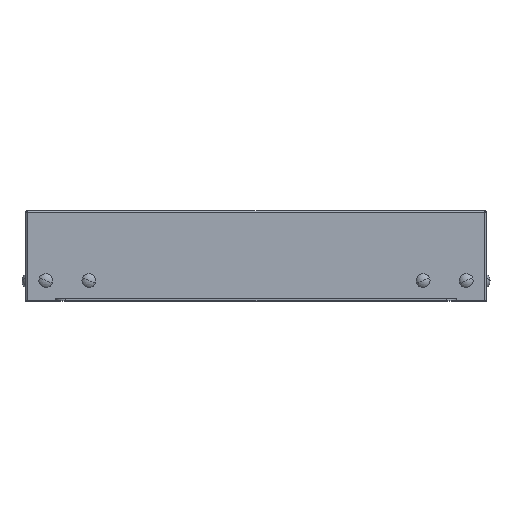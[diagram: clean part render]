
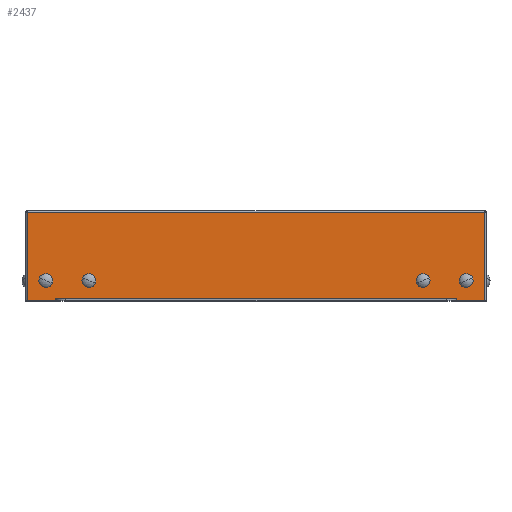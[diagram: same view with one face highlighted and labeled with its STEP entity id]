
A CAD part, top view. The second image highlights one B-rep face of the part: STEP entity #2437.
In plain terms, the highlighted planar face has unit normal (0, 0, 1).
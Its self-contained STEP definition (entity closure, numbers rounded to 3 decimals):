
#5 = EDGE_LOOP ( 'NONE', ( #851, #158 ) ) ;
#85 = EDGE_LOOP ( 'NONE', ( #1577, #1911, #782, #3794, #3509, #552, #757, #2660 ) ) ;
#113 = CARTESIAN_POINT ( 'NONE',  ( -83.5, 10., 115. ) ) ;
#120 = EDGE_CURVE ( 'NONE', #4272, #4014, #582, .T. ) ;
#158 = ORIENTED_EDGE ( 'NONE', *, *, #1169, .T. ) ;
#267 = CARTESIAN_POINT ( 'NONE',  ( 100., 0., 115. ) ) ;
#272 = ORIENTED_EDGE ( 'NONE', *, *, #1347, .F. ) ;
#340 = CARTESIAN_POINT ( 'NONE',  ( -114., 0., 115. ) ) ;
#348 = DIRECTION ( 'NONE',  ( -1., 0., 0. ) ) ;
#361 = LINE ( 'NONE', #750, #2559 ) ;
#418 = CARTESIAN_POINT ( 'NONE',  ( 114., 0., 115. ) ) ;
#440 = CARTESIAN_POINT ( 'NONE',  ( 105., 10., 115. ) ) ;
#485 = CARTESIAN_POINT ( 'NONE',  ( -106.317, 6.811, 115. ) ) ;
#503 = ORIENTED_EDGE ( 'NONE', *, *, #3773, .T. ) ;
#541 = CARTESIAN_POINT ( 'NONE',  ( -103.683, 13.189, 115. ) ) ;
#552 = ORIENTED_EDGE ( 'NONE', *, *, #3660, .T. ) ;
#582 = LINE ( 'NONE', #3761, #3157 ) ;
#599 = CIRCLE ( 'NONE', #1955, 3.45 ) ;
#605 = CARTESIAN_POINT ( 'NONE',  ( 105., 10., 115. ) ) ;
#667 = AXIS2_PLACEMENT_3D ( 'NONE', #3280, #1536, #1582 ) ;
#726 = CARTESIAN_POINT ( 'NONE',  ( -114., 370.269, 115. ) ) ;
#750 = CARTESIAN_POINT ( 'NONE',  ( 100., 0., 115. ) ) ;
#757 = ORIENTED_EDGE ( 'NONE', *, *, #2872, .T. ) ;
#762 = DIRECTION ( 'NONE',  ( 0., 0., -1. ) ) ;
#782 = ORIENTED_EDGE ( 'NONE', *, *, #2405, .F. ) ;
#808 = DIRECTION ( 'NONE',  ( 0.382, 0.924, 0. ) ) ;
#851 = ORIENTED_EDGE ( 'NONE', *, *, #1370, .T. ) ;
#946 = VERTEX_POINT ( 'NONE', #541 ) ;
#947 = CARTESIAN_POINT ( 'NONE',  ( 106.317, 6.811, 115. ) ) ;
#953 = CARTESIAN_POINT ( 'NONE',  ( -105., 10., 115. ) ) ;
#998 = VECTOR ( 'NONE', #2397, 1000. ) ;
#1009 = CARTESIAN_POINT ( 'NONE',  ( 83.5, 10., 115. ) ) ;
#1029 = DIRECTION ( 'NONE',  ( 0., 0., -1. ) ) ;
#1037 = EDGE_CURVE ( 'NONE', #3762, #3614, #2902, .T. ) ;
#1056 = LINE ( 'NONE', #726, #2998 ) ;
#1076 = DIRECTION ( 'NONE',  ( 0., -1., 0. ) ) ;
#1099 = DIRECTION ( 'NONE',  ( 0.382, -0.924, 0. ) ) ;
#1169 = EDGE_CURVE ( 'NONE', #3963, #4317, #1761, .T. ) ;
#1178 = CIRCLE ( 'NONE', #3881, 3.45 ) ;
#1183 = CARTESIAN_POINT ( 'NONE',  ( -100., 0., 115. ) ) ;
#1195 = EDGE_CURVE ( 'NONE', #3614, #3762, #1178, .T. ) ;
#1239 = CARTESIAN_POINT ( 'NONE',  ( 82.183, 13.189, 115. ) ) ;
#1255 = CARTESIAN_POINT ( 'NONE',  ( 114., 44., 115. ) ) ;
#1347 = EDGE_CURVE ( 'NONE', #3526, #3892, #2472, .T. ) ;
#1370 = EDGE_CURVE ( 'NONE', #4317, #3963, #599, .T. ) ;
#1417 = FACE_BOUND ( 'NONE', #2527, .T. ) ;
#1508 = AXIS2_PLACEMENT_3D ( 'NONE', #1009, #3067, #4467 ) ;
#1536 = DIRECTION ( 'NONE',  ( 0., 0., 1. ) ) ;
#1547 = AXIS2_PLACEMENT_3D ( 'NONE', #2750, #4159, #3533 ) ;
#1577 = ORIENTED_EDGE ( 'NONE', *, *, #2709, .T. ) ;
#1582 = DIRECTION ( 'NONE',  ( 0.382, 0.924, 0. ) ) ;
#1599 = EDGE_CURVE ( 'NONE', #3892, #3526, #4307, .T. ) ;
#1601 = EDGE_LOOP ( 'NONE', ( #1793, #503 ) ) ;
#1624 = VECTOR ( 'NONE', #348, 1000. ) ;
#1682 = VERTEX_POINT ( 'NONE', #1183 ) ;
#1717 = CARTESIAN_POINT ( 'NONE',  ( -82.183, 13.189, 115. ) ) ;
#1761 = CIRCLE ( 'NONE', #2494, 3.45 ) ;
#1793 = ORIENTED_EDGE ( 'NONE', *, *, #3228, .T. ) ;
#1794 = CARTESIAN_POINT ( 'NONE',  ( -114., 44., 115. ) ) ;
#1887 = EDGE_CURVE ( 'NONE', #3361, #3931, #2625, .T. ) ;
#1892 = CIRCLE ( 'NONE', #3941, 3.45 ) ;
#1911 = ORIENTED_EDGE ( 'NONE', *, *, #120, .T. ) ;
#1930 = CARTESIAN_POINT ( 'NONE',  ( -84.817, 6.811, 115. ) ) ;
#1947 = DIRECTION ( 'NONE',  ( 1., 0., 0. ) ) ;
#1955 = AXIS2_PLACEMENT_3D ( 'NONE', #605, #4138, #1947 ) ;
#1992 = CARTESIAN_POINT ( 'NONE',  ( -100., 0., 115. ) ) ;
#2017 = DIRECTION ( 'NONE',  ( 0., 1., 0. ) ) ;
#2096 = VERTEX_POINT ( 'NONE', #485 ) ;
#2133 = PLANE ( 'NONE',  #1547 ) ;
#2223 = AXIS2_PLACEMENT_3D ( 'NONE', #113, #3261, #808 ) ;
#2268 = LINE ( 'NONE', #3915, #2432 ) ;
#2337 = DIRECTION ( 'NONE',  ( 0., 0., -1. ) ) ;
#2397 = DIRECTION ( 'NONE',  ( -1., 0., 0. ) ) ;
#2405 = EDGE_CURVE ( 'NONE', #3931, #4014, #361, .T. ) ;
#2432 = VECTOR ( 'NONE', #2858, 1000. ) ;
#2434 = AXIS2_PLACEMENT_3D ( 'NONE', #953, #2337, #3729 ) ;
#2437 = ADVANCED_FACE ( 'NONE', ( #3809, #2452, #3846, #1417, #3869 ), #2133, .T. ) ;
#2452 = FACE_BOUND ( 'NONE', #1601, .T. ) ;
#2461 = VERTEX_POINT ( 'NONE', #340 ) ;
#2472 = CIRCLE ( 'NONE', #667, 3.45 ) ;
#2489 = EDGE_CURVE ( 'NONE', #3361, #3519, #2268, .T. ) ;
#2494 = AXIS2_PLACEMENT_3D ( 'NONE', #440, #762, #3220 ) ;
#2527 = EDGE_LOOP ( 'NONE', ( #3618, #3899 ) ) ;
#2559 = VECTOR ( 'NONE', #3833, 1000. ) ;
#2625 = LINE ( 'NONE', #4396, #3966 ) ;
#2653 = DIRECTION ( 'NONE',  ( -1., 0., 0. ) ) ;
#2660 = ORIENTED_EDGE ( 'NONE', *, *, #4358, .F. ) ;
#2709 = EDGE_CURVE ( 'NONE', #1682, #4272, #4430, .T. ) ;
#2715 = LINE ( 'NONE', #3478, #1624 ) ;
#2738 = CARTESIAN_POINT ( 'NONE',  ( 84.817, 6.811, 115. ) ) ;
#2750 = CARTESIAN_POINT ( 'NONE',  ( 115., 370.269, 115. ) ) ;
#2828 = DIRECTION ( 'NONE',  ( 0., 0., 1. ) ) ;
#2858 = DIRECTION ( 'NONE',  ( 0., 1., 0. ) ) ;
#2872 = EDGE_CURVE ( 'NONE', #4452, #2461, #1056, .T. ) ;
#2902 = CIRCLE ( 'NONE', #1508, 3.45 ) ;
#2998 = VECTOR ( 'NONE', #1076, 1000. ) ;
#3020 = CIRCLE ( 'NONE', #2434, 3.45 ) ;
#3030 = EDGE_LOOP ( 'NONE', ( #3785, #272 ) ) ;
#3067 = DIRECTION ( 'NONE',  ( 0., 0., 1. ) ) ;
#3093 = CARTESIAN_POINT ( 'NONE',  ( 103.683, 13.189, 115. ) ) ;
#3157 = VECTOR ( 'NONE', #4479, 1000. ) ;
#3220 = DIRECTION ( 'NONE',  ( 1., 0., 0. ) ) ;
#3228 = EDGE_CURVE ( 'NONE', #946, #2096, #1892, .T. ) ;
#3261 = DIRECTION ( 'NONE',  ( 0., 0., 1. ) ) ;
#3280 = CARTESIAN_POINT ( 'NONE',  ( -83.5, 10., 115. ) ) ;
#3361 = VERTEX_POINT ( 'NONE', #418 ) ;
#3478 = CARTESIAN_POINT ( 'NONE',  ( -115., 44., 115. ) ) ;
#3507 = CARTESIAN_POINT ( 'NONE',  ( 83.5, 10., 115. ) ) ;
#3509 = ORIENTED_EDGE ( 'NONE', *, *, #2489, .T. ) ;
#3519 = VERTEX_POINT ( 'NONE', #1255 ) ;
#3526 = VERTEX_POINT ( 'NONE', #1930 ) ;
#3533 = DIRECTION ( 'NONE',  ( 1., 0., 0. ) ) ;
#3564 = CARTESIAN_POINT ( 'NONE',  ( 100., 1., 115. ) ) ;
#3614 = VERTEX_POINT ( 'NONE', #2738 ) ;
#3618 = ORIENTED_EDGE ( 'NONE', *, *, #1195, .F. ) ;
#3660 = EDGE_CURVE ( 'NONE', #3519, #4452, #2715, .T. ) ;
#3729 = DIRECTION ( 'NONE',  ( 1., 0., 0. ) ) ;
#3761 = CARTESIAN_POINT ( 'NONE',  ( -114., 1., 115. ) ) ;
#3762 = VERTEX_POINT ( 'NONE', #1239 ) ;
#3772 = CARTESIAN_POINT ( 'NONE',  ( 115., 0., 115. ) ) ;
#3773 = EDGE_CURVE ( 'NONE', #2096, #946, #3020, .T. ) ;
#3785 = ORIENTED_EDGE ( 'NONE', *, *, #1599, .F. ) ;
#3794 = ORIENTED_EDGE ( 'NONE', *, *, #1887, .F. ) ;
#3809 = FACE_BOUND ( 'NONE', #3030, .T. ) ;
#3833 = DIRECTION ( 'NONE',  ( 0., 1., 0. ) ) ;
#3846 = FACE_BOUND ( 'NONE', #5, .T. ) ;
#3857 = VECTOR ( 'NONE', #2017, 1000. ) ;
#3869 = FACE_OUTER_BOUND ( 'NONE', #85, .T. ) ;
#3881 = AXIS2_PLACEMENT_3D ( 'NONE', #3507, #2828, #1099 ) ;
#3892 = VERTEX_POINT ( 'NONE', #1717 ) ;
#3899 = ORIENTED_EDGE ( 'NONE', *, *, #1037, .F. ) ;
#3915 = CARTESIAN_POINT ( 'NONE',  ( 114., 370.269, 115. ) ) ;
#3931 = VERTEX_POINT ( 'NONE', #267 ) ;
#3941 = AXIS2_PLACEMENT_3D ( 'NONE', #4175, #1029, #4153 ) ;
#3963 = VERTEX_POINT ( 'NONE', #3093 ) ;
#3966 = VECTOR ( 'NONE', #2653, 1000. ) ;
#4014 = VERTEX_POINT ( 'NONE', #3564 ) ;
#4127 = LINE ( 'NONE', #3772, #998 ) ;
#4138 = DIRECTION ( 'NONE',  ( 0., 0., -1. ) ) ;
#4153 = DIRECTION ( 'NONE',  ( 1., 0., 0. ) ) ;
#4159 = DIRECTION ( 'NONE',  ( 0., 0., 1. ) ) ;
#4175 = CARTESIAN_POINT ( 'NONE',  ( -105., 10., 115. ) ) ;
#4272 = VERTEX_POINT ( 'NONE', #4465 ) ;
#4307 = CIRCLE ( 'NONE', #2223, 3.45 ) ;
#4317 = VERTEX_POINT ( 'NONE', #947 ) ;
#4358 = EDGE_CURVE ( 'NONE', #1682, #2461, #4127, .T. ) ;
#4396 = CARTESIAN_POINT ( 'NONE',  ( 115., 0., 115. ) ) ;
#4430 = LINE ( 'NONE', #1992, #3857 ) ;
#4452 = VERTEX_POINT ( 'NONE', #1794 ) ;
#4465 = CARTESIAN_POINT ( 'NONE',  ( -100., 1., 115. ) ) ;
#4467 = DIRECTION ( 'NONE',  ( 0.382, -0.924, 0. ) ) ;
#4479 = DIRECTION ( 'NONE',  ( 1., 0., 0. ) ) ;
